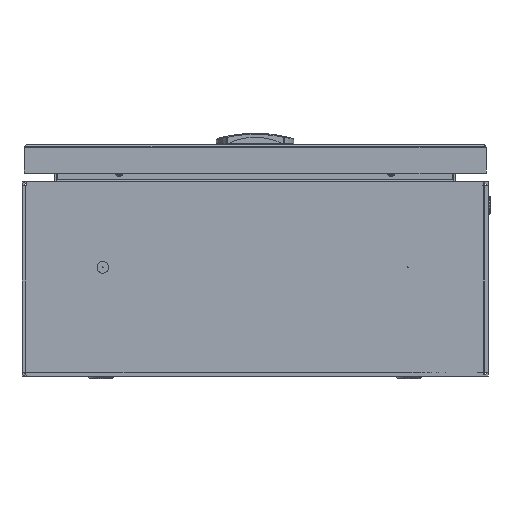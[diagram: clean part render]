
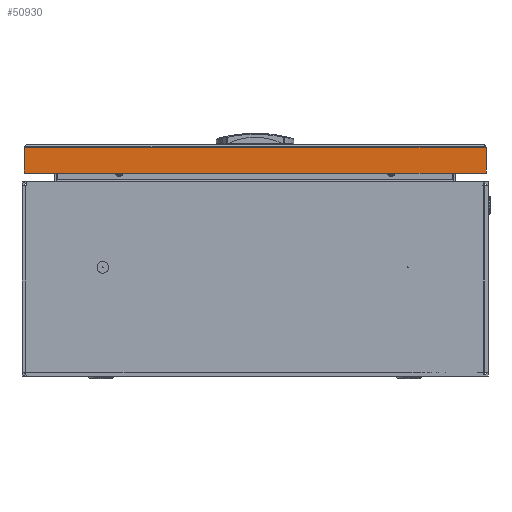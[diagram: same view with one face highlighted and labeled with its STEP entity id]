
A CAD part, left-side view. The second image highlights one B-rep face of the part: STEP entity #50930.
In plain terms, the highlighted planar face has unit normal (-1, 0, 0) as drawn and (1, 0, 0) by its records, which use the part's own axes.
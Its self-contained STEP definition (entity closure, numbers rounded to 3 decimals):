
#48277 = VERTEX_POINT('',#48278);
#48278 = CARTESIAN_POINT('',(148.5,148.5,1.8));
#48291 = EDGE_CURVE('',#48277,#48292,#48294,.T.);
#48292 = VERTEX_POINT('',#48293);
#48293 = CARTESIAN_POINT('',(148.5,-148.5,1.8));
#48294 = LINE('',#48295,#48296);
#48295 = CARTESIAN_POINT('',(148.5,-146.7,1.8));
#48296 = VECTOR('',#48297,1.);
#48297 = DIRECTION('',(0.,-1.,0.));
#50930 = ADVANCED_FACE('',(#50931),#50956,.F.);
#50931 = FACE_BOUND('',#50932,.T.);
#50932 = EDGE_LOOP('',(#50933,#50934,#50942,#50950));
#50933 = ORIENTED_EDGE('',*,*,#48291,.F.);
#50934 = ORIENTED_EDGE('',*,*,#50935,.T.);
#50935 = EDGE_CURVE('',#48277,#50936,#50938,.T.);
#50936 = VERTEX_POINT('',#50937);
#50937 = CARTESIAN_POINT('',(148.5,148.5,18.5));
#50938 = LINE('',#50939,#50940);
#50939 = CARTESIAN_POINT('',(148.5,148.5,1.8));
#50940 = VECTOR('',#50941,1.);
#50941 = DIRECTION('',(0.,0.,1.));
#50942 = ORIENTED_EDGE('',*,*,#50943,.T.);
#50943 = EDGE_CURVE('',#50936,#50944,#50946,.T.);
#50944 = VERTEX_POINT('',#50945);
#50945 = CARTESIAN_POINT('',(148.5,-148.5,18.5));
#50946 = LINE('',#50947,#50948);
#50947 = CARTESIAN_POINT('',(148.5,-146.7,18.5));
#50948 = VECTOR('',#50949,1.);
#50949 = DIRECTION('',(0.,-1.,0.));
#50950 = ORIENTED_EDGE('',*,*,#50951,.F.);
#50951 = EDGE_CURVE('',#48292,#50944,#50952,.T.);
#50952 = LINE('',#50953,#50954);
#50953 = CARTESIAN_POINT('',(148.5,-148.5,1.8));
#50954 = VECTOR('',#50955,1.);
#50955 = DIRECTION('',(0.,0.,1.));
#50956 = PLANE('',#50957);
#50957 = AXIS2_PLACEMENT_3D('',#50958,#50959,#50960);
#50958 = CARTESIAN_POINT('',(148.5,-146.7,18.5));
#50959 = DIRECTION('',(-1.,0.,0.));
#50960 = DIRECTION('',(0.,0.,1.));
